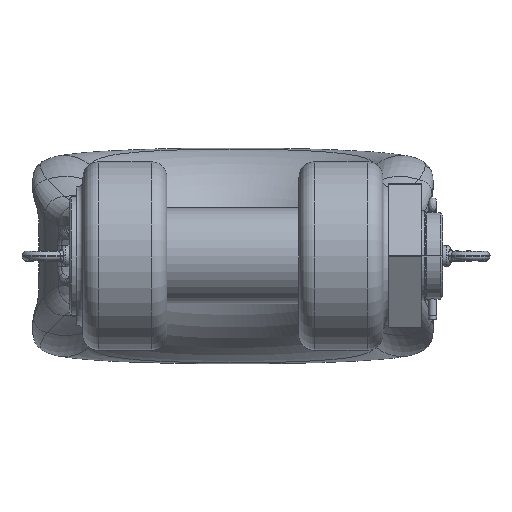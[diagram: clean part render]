
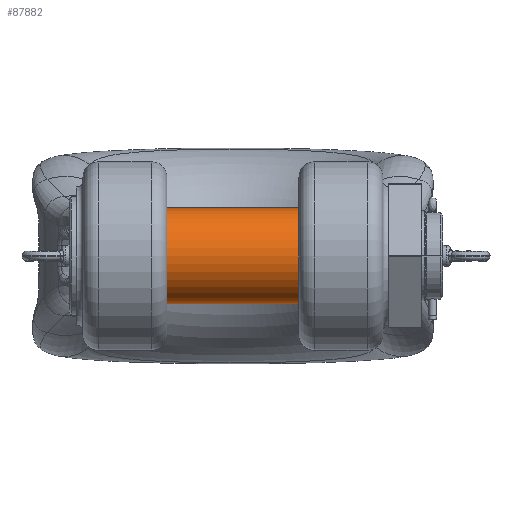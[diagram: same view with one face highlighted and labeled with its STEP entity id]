
A CAD part, front view. The second image highlights one B-rep face of the part: STEP entity #87882.
In plain terms, the highlighted cylindrical face has radius 80 mm (diameter 160 mm), a partial arc.
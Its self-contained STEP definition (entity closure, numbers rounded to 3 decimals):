
#81710=CARTESIAN_POINT('',(495.,0.,0.));
#81711=DIRECTION('',(-1.,0.,0.));
#81712=DIRECTION('',(0.,0.,-1.));
#81713=AXIS2_PLACEMENT_3D('',#81710,#81711,#81712);
#81718=CARTESIAN_POINT('',(3.,0.,0.));
#81719=DIRECTION('',(1.,0.,0.));
#81720=DIRECTION('',(0.,0.,1.));
#81721=AXIS2_PLACEMENT_3D('',#81718,#81719,#81720);
#81726=DIRECTION('',(1.,0.,0.));
#81727=VECTOR('',#81726,492.);
#81728=CARTESIAN_POINT('',(3.,0.,80.));
#81729=LINE('',#81728,#81727);
#81763=DIRECTION('',(1.,0.,0.));
#81764=VECTOR('',#81763,492.);
#81765=CARTESIAN_POINT('',(3.,0.,-80.));
#81766=LINE('',#81765,#81764);
#87112=CARTESIAN_POINT('',(495.,0.,-80.));
#87113=CARTESIAN_POINT('',(495.,0.,80.));
#87114=VERTEX_POINT('',#87112);
#87115=VERTEX_POINT('',#87113);
#87764=CARTESIAN_POINT('',(3.,0.,80.));
#87765=CARTESIAN_POINT('',(3.,0.,-80.));
#87766=VERTEX_POINT('',#87764);
#87767=VERTEX_POINT('',#87765);
#87868=CARTESIAN_POINT('',(-33.,0.,0.));
#87869=DIRECTION('',(1.,0.,0.));
#87870=DIRECTION('',(0.,0.,-1.));
#87871=AXIS2_PLACEMENT_3D('',#87868,#87869,#87870);
#87872=CYLINDRICAL_SURFACE('',#87871,80.);
#87874=ORIENTED_EDGE('',*,*,#87873,.F.);
#87876=ORIENTED_EDGE('',*,*,#87875,.F.);
#87877=ORIENTED_EDGE('',*,*,#87855,.F.);
#87879=ORIENTED_EDGE('',*,*,#87878,.T.);
#87880=EDGE_LOOP('',(#87874,#87876,#87877,#87879));
#87881=FACE_OUTER_BOUND('',#87880,.F.);
#87882=ADVANCED_FACE('',(#87881),#87872,.T.);
#81714=CIRCLE('',#81713,80.);
#81722=CIRCLE('',#81721,80.);
#87855=EDGE_CURVE('',#87766,#87767,#81722,.T.);
#87873=EDGE_CURVE('',#87114,#87115,#81714,.T.);
#87875=EDGE_CURVE('',#87767,#87114,#81766,.T.);
#87878=EDGE_CURVE('',#87766,#87115,#81729,.T.);
